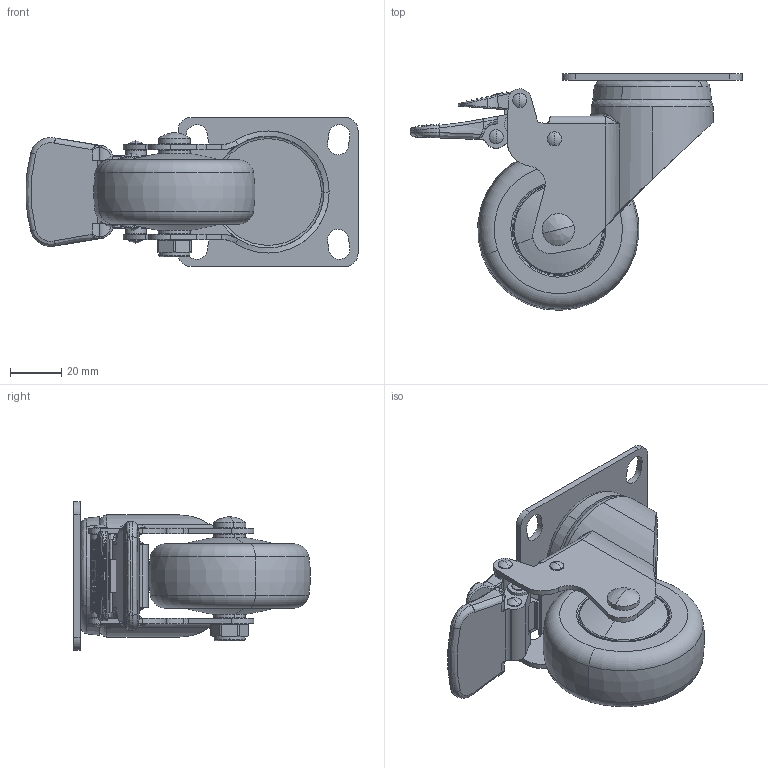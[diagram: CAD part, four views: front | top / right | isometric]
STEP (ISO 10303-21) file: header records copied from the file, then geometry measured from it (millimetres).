
FILE_DESCRIPTION (( 'STEP AP214' ), '1' );
FILE_NAME ('372225-3725-67 Æ½¶¥É²³µ.STEP', '2019-12-14T00:07:02', ( 'Owner' ), ( 'Organization' ), 'SwSTEP 2.0', 'SolidWorks 2014', '' );
FILE_SCHEMA (( 'AUTOMOTIVE_DESIGN' ));
Length unit declared in the file: millimetre
Products named in the file (12): 2.5渡价陬; 3725-12; 360-01 侐源 ; 370-64呿价; 穩隊芛5.5; 350-33a; 360-03上刚碗 （37系列使用模型）; 300-34; 价陬; 3725-907; 371-64呿价1; 372225-3725-67 す階价陬
Assembly tree (18 placements, depth 4):
  372225-3725-67 す階价陬
    2.5渡价陬
      3725-12
      360-03上刚碗 （37系列使用模型）
      370-64呿价
      371-64呿价1
      穩隊芛5.5  x8
      价陬
        300-34
        350-33a
    360-01 侐源 
    3725-907
Bounding box: 129.24 x 92.13 x 58 mm (x, y, z)
Volume: 126430.8 mm3; surface area: 52272 mm2
Topology: 16 solids, 16 shells, 669 faces, 1706 edges, 1086 vertices
Faces by surface type: plane 251, cylinder 191, bspline 154, cone 33, torus 24, sphere 16
Entity records: 104755 total; most frequent: CARTESIAN_POINT 89994, ORIENTED_EDGE 3268, DIRECTION 2544, EDGE_CURVE 1634, VERTEX_POINT 1037, AXIS2_PLACEMENT_3D 899, VECTOR 746, LINE 746
